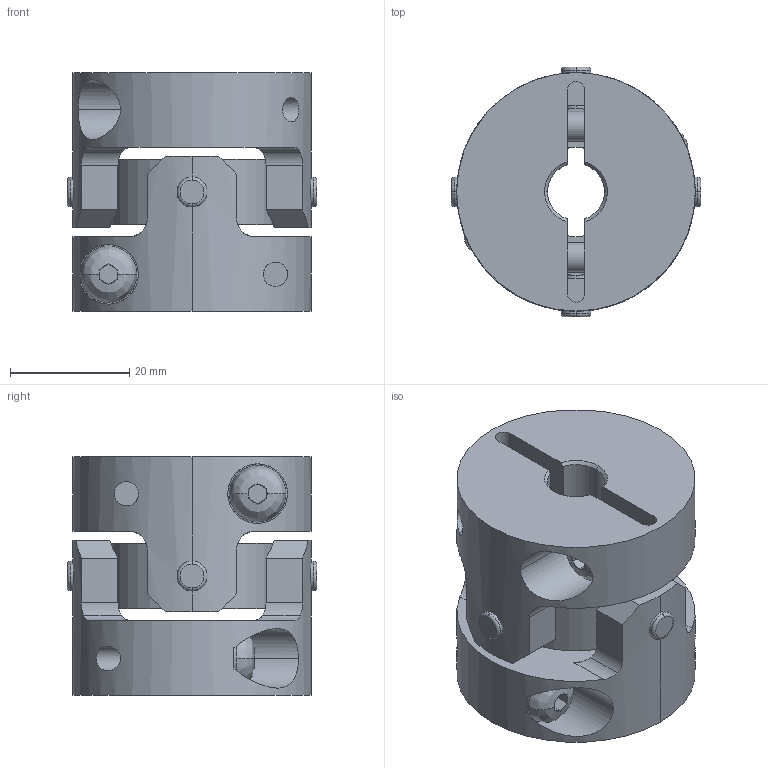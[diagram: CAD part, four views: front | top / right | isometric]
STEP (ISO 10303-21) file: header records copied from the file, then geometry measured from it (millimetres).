
FILE_DESCRIPTION((''),'2;1');
FILE_NAME('UA-40C-9.525×18.stp','2013-11-19T08:17:47',(''),(''),'AutoCAD STEP 2000i','AutoCAD 2000i',', , ');
FILE_SCHEMA(('CONFIG_CONTROL_DESIGN'));
Length unit declared in the file: millimetre
Products named in the file (7): UA-40C-8×18; 忣兜1; UA-4002-D18; BTN-M5; UA-4002-D08-1; UA-4002-D08; UA40-SEN
Assembly tree (8 placements, depth 3):
  UA-40C-8×18
    忣兜1
    UA-4002-D18
      BTN-M5
    UA-4002-D08-1
      BTN-M5
    UA-4002-D08
      BTN-M5
    UA40-SEN
Bounding box: 41.81 x 41.81 x 40 mm (x, y, z)
Volume: 33255.4 mm3; surface area: 15212.6 mm2
Topology: 1 solids, 1 shells, 252 faces, 654 edges, 412 vertices
Faces by surface type: plane 124, cylinder 96, cone 16, bspline 8, torus 8
Entity records: 9705 total; most frequent: CARTESIAN_POINT 3363, DIRECTION 1308, ORIENTED_EDGE 1308, EDGE_CURVE 654, AXIS2_PLACEMENT_3D 505, VERTEX_POINT 412, VECTOR 298, LINE 298
